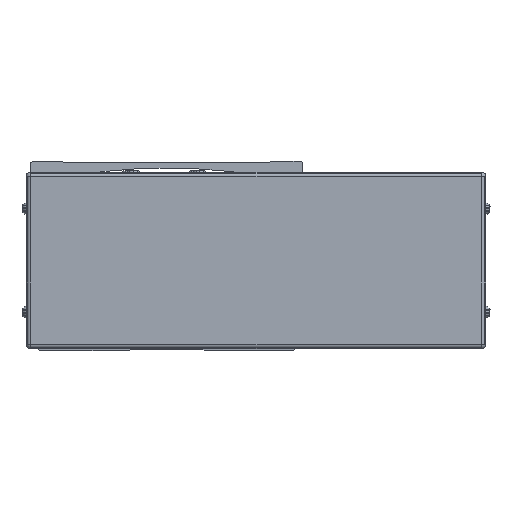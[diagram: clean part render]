
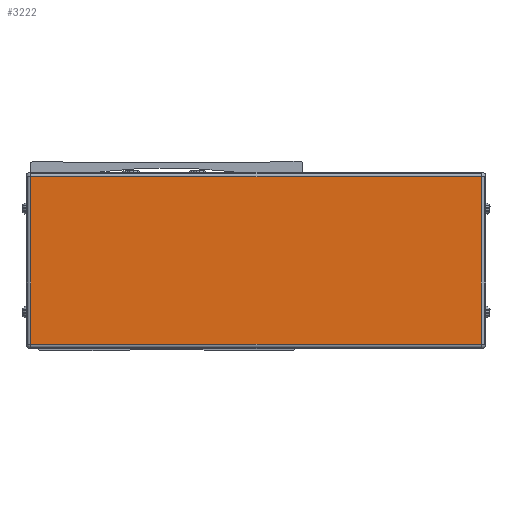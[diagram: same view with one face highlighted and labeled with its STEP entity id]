
A CAD part, front view. The second image highlights one B-rep face of the part: STEP entity #3222.
In plain terms, the highlighted planar face has unit normal (0, -1, 0).
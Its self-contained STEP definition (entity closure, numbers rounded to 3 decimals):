
#3222=ADVANCED_FACE('',(#7791),#7792,.T.);
#7791=FACE_OUTER_BOUND('',#14396,.T.);
#7792=PLANE('',#14397);
#14396=EDGE_LOOP('',(#24332,#24333,#24334,#24335));
#14397=AXIS2_PLACEMENT_3D('',#24336,#24337,#24338);
#24332=ORIENTED_EDGE('',*,*,#40352,.F.);
#24333=ORIENTED_EDGE('',*,*,#40353,.F.);
#24334=ORIENTED_EDGE('',*,*,#40354,.F.);
#24335=ORIENTED_EDGE('',*,*,#40166,.F.);
#24336=CARTESIAN_POINT('',(-259.5,-188.778,-8.));
#24337=DIRECTION('',(0.,-1.0,0.));
#24338=DIRECTION('',(1.0,0.,0.));
#40166=EDGE_CURVE('',#48913,#48915,#48916,.T.);
#40352=EDGE_CURVE('',#49207,#48913,#49208,.T.);
#40353=EDGE_CURVE('',#46936,#49207,#49209,.T.);
#40354=EDGE_CURVE('',#48915,#46936,#49210,.T.);
#46936=VERTEX_POINT('',#58263);
#48913=VERTEX_POINT('',#61247);
#48915=VERTEX_POINT('',#61249);
#48916=LINE('',#61250,#61251);
#49207=VERTEX_POINT('',#61694);
#49208=LINE('',#61695,#61696);
#49209=LINE('',#61697,#61698);
#49210=LINE('',#61699,#61700);
#58263=CARTESIAN_POINT('',(-361.7,-188.778,30.));
#61247=CARTESIAN_POINT('',(-157.3,-188.778,-46.));
#61249=CARTESIAN_POINT('',(-361.7,-188.778,-46.));
#61250=CARTESIAN_POINT('',(-259.5,-188.778,-46.));
#61251=VECTOR('',#73398,10.0);
#61694=CARTESIAN_POINT('',(-157.3,-188.778,30.));
#61695=CARTESIAN_POINT('',(-157.3,-188.778,-8.));
#61696=VECTOR('',#73602,10.0);
#61697=CARTESIAN_POINT('',(-259.5,-188.778,30.));
#61698=VECTOR('',#73603,10.0);
#61699=CARTESIAN_POINT('',(-361.7,-188.778,-8.));
#61700=VECTOR('',#73604,10.0);
#73398=DIRECTION('',(-1.0,0.,0.));
#73602=DIRECTION('',(0.0,0.,-1.0));
#73603=DIRECTION('',(1.0,0.,0.));
#73604=DIRECTION('',(0.0,0.,1.0));
